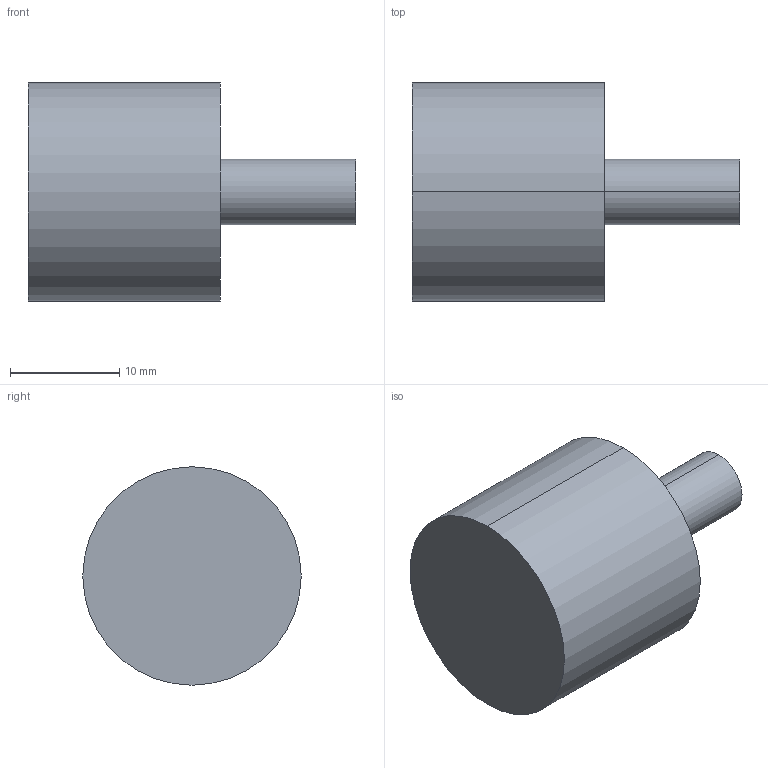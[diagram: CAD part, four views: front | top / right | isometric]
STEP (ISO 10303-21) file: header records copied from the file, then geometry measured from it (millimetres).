
FILE_DESCRIPTION (( 'STEP AP214' ), '1' );
FILE_NAME ('Fuehrungsrolle_Sockelhebebeschlag.STEP', '2010-09-22T06:31:26', ( 'grass' ), ( '' ), 'SwSTEP 2.0', 'SolidWorks 2010', '' );
FILE_SCHEMA (( 'AUTOMOTIVE_DESIGN' ));
Length unit declared in the file: millimetre
Products named in the file (1): Fuehrungsrolle_Sockelhebebeschlag
Bounding box: 30 x 20 x 20 mm (x, y, z)
Volume: 5879.8 mm3; surface area: 1967.9 mm2
Topology: 1 solids, 1 shells, 7 faces, 12 edges, 8 vertices
Faces by surface type: cylinder 4, plane 3
Entity records: 208 total; most frequent: DIRECTION 36, CARTESIAN_POINT 28, ORIENTED_EDGE 24, AXIS2_PLACEMENT_3D 16, EDGE_CURVE 12, CIRCLE 8, VERTEX_POINT 8, EDGE_LOOP 8
